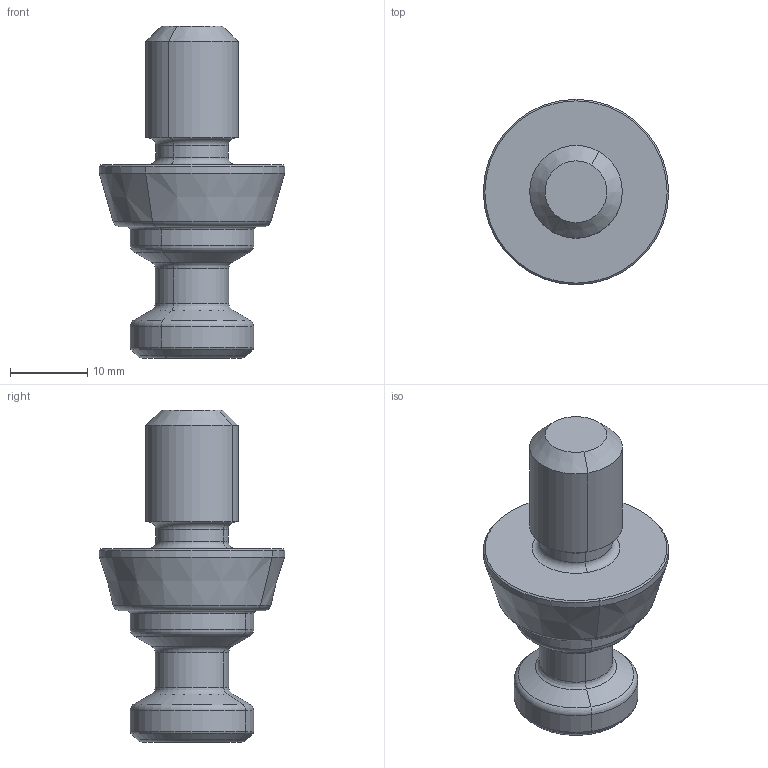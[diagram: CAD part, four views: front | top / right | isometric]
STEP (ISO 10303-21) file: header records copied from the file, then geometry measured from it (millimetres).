
FILE_DESCRIPTION (( 'STEP AP203' ), '1' );
FILE_NAME ('cp156-12001.STEP', '2021-10-25T23:36:22', ( '' ), ( '' ), 'SwSTEP 2.0', 'SolidWorks 2020', '' );
FILE_SCHEMA (( 'CONFIG_CONTROL_DESIGN' ));
Length unit declared in the file: millimetre
Products named in the file (1): cp156-12001
Bounding box: 24 x 24 x 43 mm (x, y, z)
Volume: 7207.8 mm3; surface area: 2862.1 mm2
Topology: 1 solids, 1 shells, 67 faces, 140 edges, 77 vertices
Faces by surface type: torus 20, plane 17, cone 16, cylinder 14
Entity records: 1863 total; most frequent: DIRECTION 348, CARTESIAN_POINT 331, ORIENTED_EDGE 276, AXIS2_PLACEMENT_3D 150, EDGE_CURVE 138, CIRCLE 82, VERTEX_POINT 77, EDGE_LOOP 71
